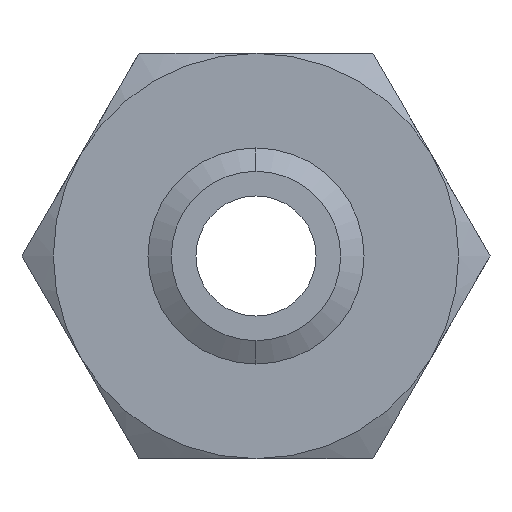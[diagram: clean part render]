
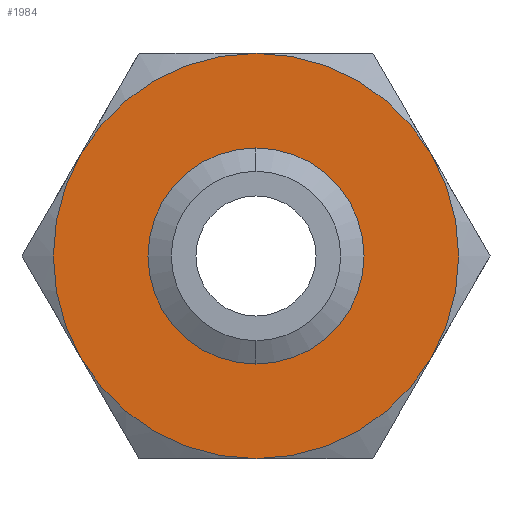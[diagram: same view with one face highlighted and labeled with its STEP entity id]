
A CAD part, front view. The second image highlights one B-rep face of the part: STEP entity #1984.
In plain terms, the highlighted planar face has unit normal (0, -1, 0).
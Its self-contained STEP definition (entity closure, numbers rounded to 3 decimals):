
#523 = EDGE_CURVE ( 'NONE', #524, #525, #1576, .T. ) ;
#524 = VERTEX_POINT ( 'NONE', #1568 ) ;
#525 = VERTEX_POINT ( 'NONE', #1567 ) ;
#1567 = CARTESIAN_POINT ( 'NONE',  ( 0., 0., 15.67 ) ) ;
#1568 = CARTESIAN_POINT ( 'NONE',  ( 0., 0., -15.67 ) ) ;
#1569 = DIRECTION ( 'NONE',  ( 0., 0., -1. ) ) ;
#1570 = DIRECTION ( 'NONE',  ( 0., -1., 0. ) ) ;
#1571 = CARTESIAN_POINT ( 'NONE',  ( 0., 0., 0. ) ) ;
#1572 = AXIS2_PLACEMENT_3D ( 'NONE', #1571, #1570, #1569 ) ;
#1576 = CIRCLE ( 'NONE', #1572, 15.67 ) ;
#1673 = CIRCLE ( 'NONE', #1739, 37.5 ) ;
#1678 = DIRECTION ( 'NONE',  ( 0., 0., 1. ) ) ;
#1679 = DIRECTION ( 'NONE',  ( 0., 1., 0. ) ) ;
#1680 = CARTESIAN_POINT ( 'NONE',  ( 0., 0., 0. ) ) ;
#1681 = AXIS2_PLACEMENT_3D ( 'NONE', #1680, #1679, #1678 ) ;
#1682 = CIRCLE ( 'NONE', #1681, 37.5 ) ;
#1683 = CARTESIAN_POINT ( 'NONE',  ( 0., 0., -37.5 ) ) ;
#1686 = DIRECTION ( 'NONE',  ( 0., 0., 1. ) ) ;
#1687 = DIRECTION ( 'NONE',  ( 0., 1., 0. ) ) ;
#1688 = CARTESIAN_POINT ( 'NONE',  ( 0., 0., 0. ) ) ;
#1689 = AXIS2_PLACEMENT_3D ( 'NONE', #1688, #1687, #1686 ) ;
#1690 = CIRCLE ( 'NONE', #1689, 37.5 ) ;
#1692 = DIRECTION ( 'NONE',  ( 0., 0., 1. ) ) ;
#1693 = DIRECTION ( 'NONE',  ( 0., 1., 0. ) ) ;
#1694 = CARTESIAN_POINT ( 'NONE',  ( 0., 0., 0. ) ) ;
#1695 = AXIS2_PLACEMENT_3D ( 'NONE', #1694, #1693, #1692 ) ;
#1696 = CIRCLE ( 'NONE', #1695, 37.5 ) ;
#1697 = CARTESIAN_POINT ( 'NONE',  ( 32.476, 0., -18.75 ) ) ;
#1698 = DIRECTION ( 'NONE',  ( 0., 0., -1. ) ) ;
#1699 = DIRECTION ( 'NONE',  ( 0., -1., 0. ) ) ;
#1700 = CARTESIAN_POINT ( 'NONE',  ( 0., 0., 0. ) ) ;
#1701 = AXIS2_PLACEMENT_3D ( 'NONE', #1700, #1699, #1698 ) ;
#1702 = CIRCLE ( 'NONE', #1701, 15.67 ) ;
#1707 = DIRECTION ( 'NONE',  ( 0., 0., 1. ) ) ;
#1708 = DIRECTION ( 'NONE',  ( 0., 1., 0. ) ) ;
#1709 = CARTESIAN_POINT ( 'NONE',  ( 0., 0., 0. ) ) ;
#1710 = AXIS2_PLACEMENT_3D ( 'NONE', #1709, #1708, #1707 ) ;
#1711 = CIRCLE ( 'NONE', #1710, 37.5 ) ;
#1713 = DIRECTION ( 'NONE',  ( 0., 0., 1. ) ) ;
#1714 = DIRECTION ( 'NONE',  ( 0., 1., 0. ) ) ;
#1715 = CARTESIAN_POINT ( 'NONE',  ( 0., 0., 0. ) ) ;
#1716 = AXIS2_PLACEMENT_3D ( 'NONE', #1715, #1714, #1713 ) ;
#1717 = CIRCLE ( 'NONE', #1716, 37.5 ) ;
#1718 = CARTESIAN_POINT ( 'NONE',  ( 32.476, 0., 18.75 ) ) ;
#1719 = DIRECTION ( 'NONE',  ( 0., 0., 1. ) ) ;
#1720 = DIRECTION ( 'NONE',  ( 0., 1., 0. ) ) ;
#1721 = CARTESIAN_POINT ( 'NONE',  ( 21.651, 0., -37.5 ) ) ;
#1722 = AXIS2_PLACEMENT_3D ( 'NONE', #1721, #1720, #1719 ) ;
#1723 = CARTESIAN_POINT ( 'NONE',  ( 0., 0., 37.5 ) ) ;
#1724 = PLANE ( 'NONE',  #1722 ) ;
#1725 = FACE_BOUND ( 'NONE', #1956, .T. ) ;
#1726 = FACE_OUTER_BOUND ( 'NONE', #1983, .T. ) ;
#1732 = CARTESIAN_POINT ( 'NONE',  ( -32.476, 0., -18.75 ) ) ;
#1733 = CARTESIAN_POINT ( 'NONE',  ( -32.476, 0., 18.75 ) ) ;
#1736 = DIRECTION ( 'NONE',  ( 0., 0., 1. ) ) ;
#1737 = DIRECTION ( 'NONE',  ( 0., 1., 0. ) ) ;
#1738 = CARTESIAN_POINT ( 'NONE',  ( 0., 0., 0. ) ) ;
#1739 = AXIS2_PLACEMENT_3D ( 'NONE', #1738, #1737, #1736 ) ;
#1953 = EDGE_CURVE ( 'NONE', #525, #524, #1702, .T. ) ;
#1954 = ORIENTED_EDGE ( 'NONE', *, *, #523, .F. ) ;
#1955 = ORIENTED_EDGE ( 'NONE', *, *, #1953, .F. ) ;
#1956 = EDGE_LOOP ( 'NONE', ( #1954, #1955 ) ) ;
#1957 = EDGE_CURVE ( 'NONE', #1987, #1960, #1696, .T. ) ;
#1958 = ORIENTED_EDGE ( 'NONE', *, *, #1957, .F. ) ;
#1960 = VERTEX_POINT ( 'NONE', #1697 ) ;
#1963 = EDGE_CURVE ( 'NONE', #1968, #1982, #1690, .T. ) ;
#1967 = ORIENTED_EDGE ( 'NONE', *, *, #1963, .F. ) ;
#1968 = VERTEX_POINT ( 'NONE', #1683 ) ;
#1969 = ORIENTED_EDGE ( 'NONE', *, *, #1971, .F. ) ;
#1971 = EDGE_CURVE ( 'NONE', #1960, #1968, #1682, .T. ) ;
#1973 = EDGE_CURVE ( 'NONE', #1982, #1979, #1673, .T. ) ;
#1979 = VERTEX_POINT ( 'NONE', #1733 ) ;
#1981 = ORIENTED_EDGE ( 'NONE', *, *, #1973, .F. ) ;
#1982 = VERTEX_POINT ( 'NONE', #1732 ) ;
#1983 = EDGE_LOOP ( 'NONE', ( #1985, #1989, #1981, #1967, #1969, #1958 ) ) ;
#1984 = ADVANCED_FACE ( 'NONE', ( #1726, #1725 ), #1724, .F. ) ;
#1985 = ORIENTED_EDGE ( 'NONE', *, *, #1988, .F. ) ;
#1986 = VERTEX_POINT ( 'NONE', #1723 ) ;
#1987 = VERTEX_POINT ( 'NONE', #1718 ) ;
#1988 = EDGE_CURVE ( 'NONE', #1986, #1987, #1717, .T. ) ;
#1989 = ORIENTED_EDGE ( 'NONE', *, *, #1990, .F. ) ;
#1990 = EDGE_CURVE ( 'NONE', #1979, #1986, #1711, .T. ) ;
